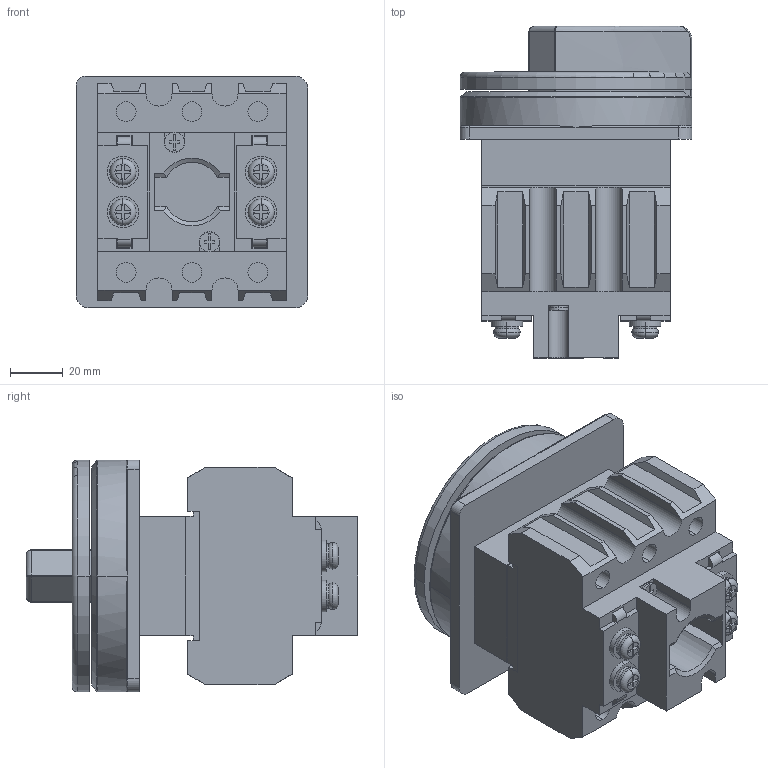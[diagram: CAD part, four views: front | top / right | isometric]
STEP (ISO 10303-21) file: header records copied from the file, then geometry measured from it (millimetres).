
FILE_DESCRIPTION((''),'2;1');
FILE_NAME('CDF1-100A','2023-08-14T',('xiaokai.shi'),(''),'PRO/ENGINEER BY PARAMETRIC TECHNOLOGY CORPORATION, 2015440','PRO/ENGINEER BY PARAMETRIC TECHNOLOGY CORPORATION, 2015440','');
FILE_SCHEMA(('CONFIG_CONTROL_DESIGN'));
Length unit declared in the file: millimetre
Products named in the file (1): CDF1-100A
Bounding box: 88 x 126 x 88 mm (x, y, z)
Surface area: 71051 mm2 (no closed solid volume)
Topology: 0 solids, 4 shells, 635 faces, 1697 edges, 1109 vertices
Faces by surface type: plane 485, cylinder 106, torus 28, bspline 9, cone 3, revolution 2, extrusion 2
Entity records: 20953 total; most frequent: CARTESIAN_POINT 5004, ORIENTED_EDGE 3394, DIRECTION 3118, EDGE_CURVE 1697, VECTOR 1366, LINE 1364, VERTEX_POINT 1109, AXIS2_PLACEMENT_3D 875
